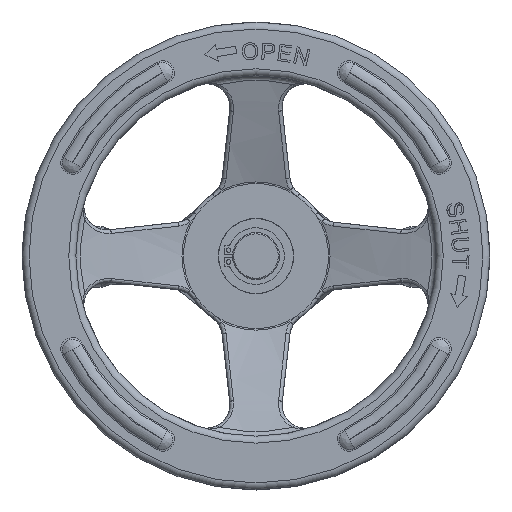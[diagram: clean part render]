
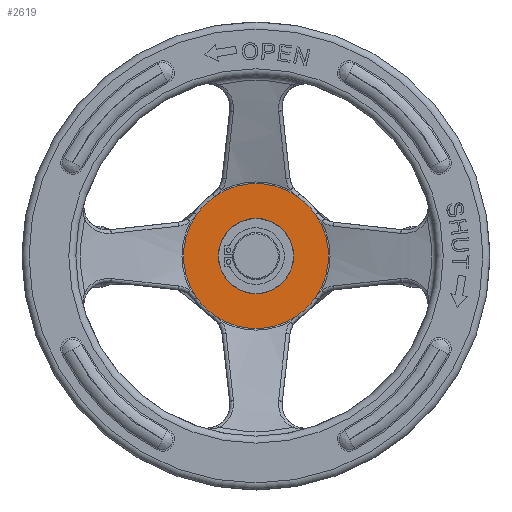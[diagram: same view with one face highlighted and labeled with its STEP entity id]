
A CAD part, top view. The second image highlights one B-rep face of the part: STEP entity #2619.
In plain terms, the highlighted planar face has unit normal (0, 0, 1).
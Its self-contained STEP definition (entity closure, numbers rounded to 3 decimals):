
#379=FACE_BOUND('',#4709,.T.);
#380=FACE_BOUND('',#4710,.T.);
#1537=CIRCLE('',#16201,31.);
#1549=CIRCLE('',#16214,31.);
#1559=CIRCLE('',#16225,31.);
#1573=CIRCLE('',#16240,31.);
#1605=CIRCLE('',#16316,16.1);
#1606=CIRCLE('',#16318,31.);
#1607=CIRCLE('',#16319,31.);
#1608=CIRCLE('',#16320,31.);
#1609=CIRCLE('',#16321,31.);
#2619=ADVANCED_FACE('',(#379,#380),#2943,.T.);
#2943=PLANE('',#16322);
#4709=EDGE_LOOP('',(#9699));
#4710=EDGE_LOOP('',(#9700,#9701,#9702,#9703,#9704,#9705,#9706,#9707));
#9699=ORIENTED_EDGE('',*,*,#13622,.T.);
#9700=ORIENTED_EDGE('',*,*,#13472,.F.);
#9701=ORIENTED_EDGE('',*,*,#13623,.F.);
#9702=ORIENTED_EDGE('',*,*,#13442,.F.);
#9703=ORIENTED_EDGE('',*,*,#13624,.F.);
#9704=ORIENTED_EDGE('',*,*,#13410,.F.);
#9705=ORIENTED_EDGE('',*,*,#13625,.F.);
#9706=ORIENTED_EDGE('',*,*,#13506,.F.);
#9707=ORIENTED_EDGE('',*,*,#13626,.F.);
#11321=VERTEX_POINT('',#33408);
#11324=VERTEX_POINT('',#33413);
#11343=VERTEX_POINT('',#33705);
#11346=VERTEX_POINT('',#33710);
#11366=VERTEX_POINT('',#34003);
#11367=VERTEX_POINT('',#34005);
#11387=VERTEX_POINT('',#34299);
#11390=VERTEX_POINT('',#34304);
#11456=VERTEX_POINT('',#34885);
#13410=EDGE_CURVE('',#11324,#11321,#1537,.T.);
#13442=EDGE_CURVE('',#11346,#11343,#1549,.T.);
#13472=EDGE_CURVE('',#11366,#11367,#1559,.T.);
#13506=EDGE_CURVE('',#11390,#11387,#1573,.T.);
#13622=EDGE_CURVE('',#11456,#11456,#1605,.T.);
#13623=EDGE_CURVE('',#11343,#11366,#1606,.T.);
#13624=EDGE_CURVE('',#11321,#11346,#1607,.T.);
#13625=EDGE_CURVE('',#11387,#11324,#1608,.T.);
#13626=EDGE_CURVE('',#11367,#11390,#1609,.T.);
#16201=AXIS2_PLACEMENT_3D('',#33414,#19432,#19433);
#16214=AXIS2_PLACEMENT_3D('',#33711,#19458,#19459);
#16225=AXIS2_PLACEMENT_3D('',#34004,#19480,#19481);
#16240=AXIS2_PLACEMENT_3D('',#34305,#19510,#19511);
#16316=AXIS2_PLACEMENT_3D('',#34884,#19694,#19695);
#16318=AXIS2_PLACEMENT_3D('',#34887,#19698,#19699);
#16319=AXIS2_PLACEMENT_3D('',#34888,#19700,#19701);
#16320=AXIS2_PLACEMENT_3D('',#34889,#19702,#19703);
#16321=AXIS2_PLACEMENT_3D('',#34890,#19704,#19705);
#16322=AXIS2_PLACEMENT_3D('',#34891,#19706,#19707);
#19432=DIRECTION('',(0.,0.,-1.));
#19433=DIRECTION('',(-1.,0.,0.));
#19458=DIRECTION('',(0.,0.,-1.));
#19459=DIRECTION('',(-1.,0.,0.));
#19480=DIRECTION('',(0.,0.,-1.));
#19481=DIRECTION('',(-1.,0.,0.));
#19510=DIRECTION('',(0.,0.,-1.));
#19511=DIRECTION('',(-1.,0.,0.));
#19694=DIRECTION('',(0.,0.,-1.));
#19695=DIRECTION('',(-1.,0.,0.));
#19698=DIRECTION('',(0.,0.,-1.));
#19699=DIRECTION('',(-1.,0.,0.));
#19700=DIRECTION('',(0.,0.,-1.));
#19701=DIRECTION('',(-1.,0.,0.));
#19702=DIRECTION('',(0.,0.,-1.));
#19703=DIRECTION('',(-1.,0.,0.));
#19704=DIRECTION('',(0.,0.,-1.));
#19705=DIRECTION('',(-1.,0.,0.));
#19706=DIRECTION('',(0.,0.,1.));
#19707=DIRECTION('',(1.,0.,0.));
#33408=CARTESIAN_POINT('',(17.79,-25.387,231.));
#33413=CARTESIAN_POINT('',(25.387,-17.79,231.));
#33414=CARTESIAN_POINT('',(0.,0.,231.));
#33705=CARTESIAN_POINT('',(-25.387,-17.79,231.));
#33710=CARTESIAN_POINT('',(-17.79,-25.387,231.));
#33711=CARTESIAN_POINT('',(0.,0.,231.));
#34003=CARTESIAN_POINT('',(-25.387,17.79,231.));
#34004=CARTESIAN_POINT('',(0.,0.,231.));
#34005=CARTESIAN_POINT('',(-17.79,25.387,231.));
#34299=CARTESIAN_POINT('',(25.387,17.79,231.));
#34304=CARTESIAN_POINT('',(17.79,25.387,231.));
#34305=CARTESIAN_POINT('',(0.,0.,231.));
#34884=CARTESIAN_POINT('',(0.,0.,231.));
#34885=CARTESIAN_POINT('',(-16.1,0.,231.));
#34887=CARTESIAN_POINT('',(0.,0.,231.));
#34888=CARTESIAN_POINT('',(0.,0.,231.));
#34889=CARTESIAN_POINT('',(0.,0.,231.));
#34890=CARTESIAN_POINT('',(0.,0.,231.));
#34891=CARTESIAN_POINT('',(0.,-21.,231.));
